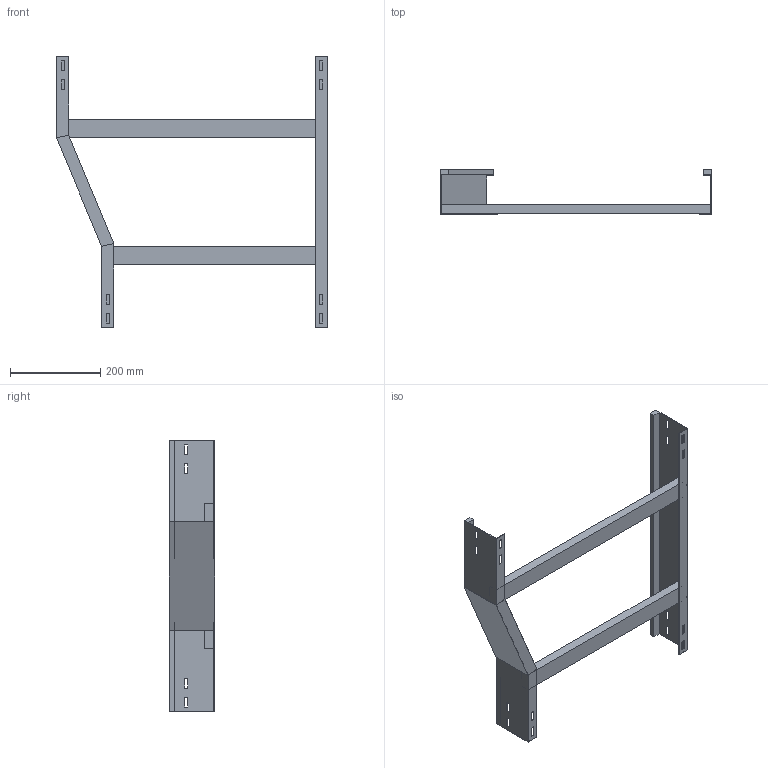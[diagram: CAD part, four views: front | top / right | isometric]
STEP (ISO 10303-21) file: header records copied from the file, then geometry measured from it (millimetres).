
FILE_DESCRIPTION (( 'STEP AP214' ), '1' );
FILE_NAME ('B2X21B5D600XX.step', '2025-09-02T17:17:14', ( '' ), ( '' ), 'SwSTEP 2.0', 'SolidWorks 2023', '' );
FILE_SCHEMA (( 'AUTOMOTIVE_DESIGN' ));
Length unit declared in the file: millimetre
Products named in the file (5): SPONDA RID. DX 600-500_H100; TRAVERSINO_600; SPONDA DRITTA_H100; B2X21B5D600XX; TRAVERSINO_500
Assembly tree (4 placements, depth 2):
  B2X21B5D600XX
    SPONDA RID. DX 600-500_H100
    TRAVERSINO_500
    TRAVERSINO_600
    SPONDA DRITTA_H100
Bounding box: 600 x 100 x 600 mm (x, y, z)
Volume: 1418832 mm3; surface area: 482988 mm2
Topology: 4 solids, 4 shells, 112 faces, 296 edges, 192 vertices
Faces by surface type: plane 112
Entity records: 3590 total; most frequent: CARTESIAN_POINT 607, ORIENTED_EDGE 592, DIRECTION 534, VECTOR 296, LINE 296, EDGE_CURVE 296, VERTEX_POINT 192, EDGE_LOOP 144
